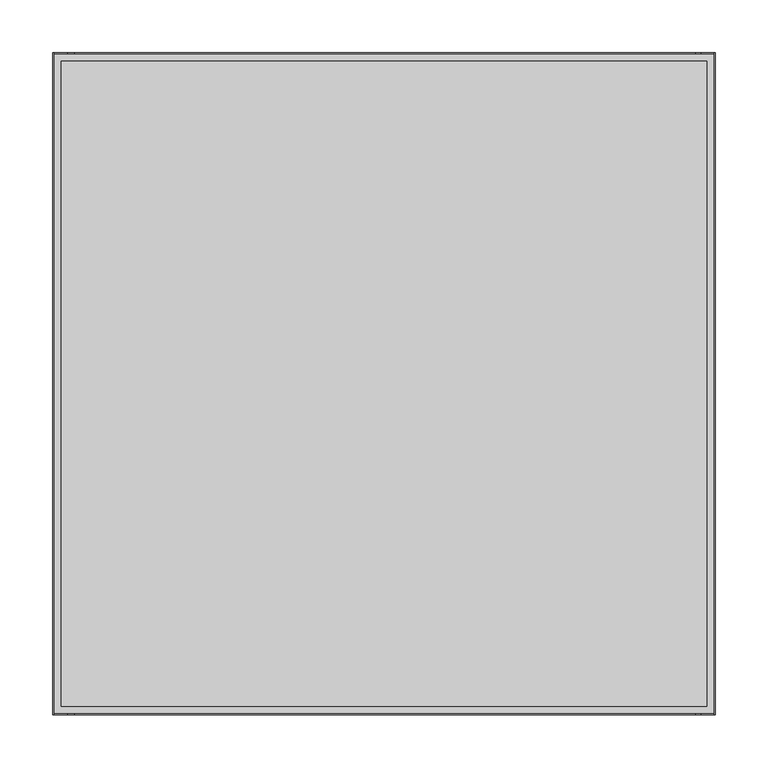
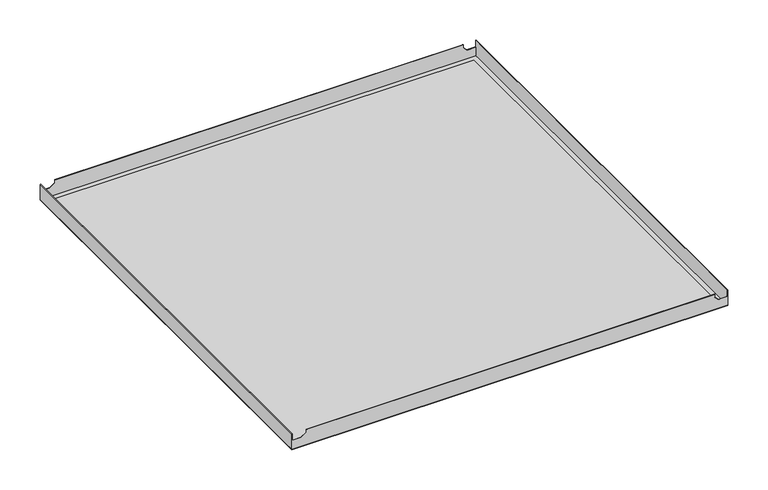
"""IFC4 building model written with IfcOpenShell, lengths in millimetres: proxy geometry, durlum_S1_panel : durlum_S1_panel."""

import ifcopenshell
import ifcopenshell.guid

model = None  # the IFC model being written
_history = None  # IfcOwnerHistory: only IFC2X3 demands one
_inside = {}  # id of a spatial element -> (the spatial element, [elements in it])
_under = {}  # id of a project, library or spatial element -> (it, [spatial elements below it])
_declared = {}  # id of a project -> (the project, [libraries it declares])
_typed = {}  # id of a type object -> (the type object, [elements of that type])
_made_of = {}  # id of a material, layer set ... -> (it, [elements and type objects made of it])


def new_model(schema):
    """Start an empty IFC model of exactly this schema.

    Asked for "IFC4X3", IfcOpenShell would pick the latest addendum, in which some entities
    have other attributes; the version numbers below select the first issue.
    IFC2X3 requires an IfcOwnerHistory on every rooted entity: one is made here for all.
    """
    global model, _history
    if schema == "IFC4X3":
        model = ifcopenshell.file(schema_version=(4, 3, 0, 0))
    else:
        model = ifcopenshell.file(schema=schema)
    _inside.clear()
    _under.clear()
    _declared.clear()
    _typed.clear()
    _made_of.clear()
    _history = None
    if model.schema == "IFC2X3":
        org = make("IfcOrganization", Name="unknown")
        user = make(
            "IfcPersonAndOrganization",
            ThePerson=make("IfcPerson", FamilyName="unknown"),
            TheOrganization=org,
        )
        app = make(
            "IfcApplication",
            ApplicationDeveloper=org,
            Version="unknown",
            ApplicationFullName="unknown",
            ApplicationIdentifier="unknown",
        )
        _history = make(
            "IfcOwnerHistory",
            OwningUser=user,
            OwningApplication=app,
            ChangeAction="ADDED",
            CreationDate=0,
        )
    return model


def make(cls, **values):
    """One entity of the class cls with the attributes given. An attribute that is None is left unset."""
    return model.create_entity(
        cls, **{name: value for name, value in values.items() if value is not None}
    )


def rooted(cls, **values):
    """An entity with a GlobalId (a new one), such as an element, a storey or a relation."""
    return make(cls, GlobalId=ifcopenshell.guid.new(), OwnerHistory=_history, **values)


def si_unit(unit_type, name, prefix=None):
    """IfcSIUnit, for example si_unit("LENGTHUNIT", "METRE", prefix="MILLI")."""
    return make("IfcSIUnit", UnitType=unit_type, Prefix=prefix, Name=name)


def assignment(units):
    """IfcUnitAssignment: the units of a project."""
    return None if units is None else make("IfcUnitAssignment", Units=units)


def point(xyz):
    """IfcCartesianPoint."""
    return None if xyz is None else make("IfcCartesianPoint", Coordinates=xyz)


def direction(xyz):
    """IfcDirection."""
    return None if xyz is None else make("IfcDirection", DirectionRatios=xyz)


def frame(location, z_axis=None, x_axis=None):
    """IfcAxis2Placement3D, a coordinate frame: its origin and axes. An axis left out is left unset."""
    return make(
        "IfcAxis2Placement3D",
        Location=point(location),
        Axis=direction(z_axis),
        RefDirection=direction(x_axis),
    )


def origin():
    """The frame at (0, 0, 0) with its axes left unset."""
    return frame((0.0, 0.0, 0.0))


def origin_with_axes():
    """The frame at (0, 0, 0) with the z axis (0, 0, 1) and the x axis (1, 0, 0) written out."""
    return frame((0.0, 0.0, 0.0), z_axis=(0.0, 0.0, 1.0), x_axis=(1.0, 0.0, 0.0))


def place(relative_to, where):
    """IfcLocalPlacement: puts the frame where relative to a parent placement (None: the world)."""
    return make(
        "IfcLocalPlacement", PlacementRelTo=relative_to, RelativePlacement=where
    )


def context(
    kind, dimensions, precision=None, world=None, true_north=None, identifier=None
):
    """IfcGeometricRepresentationContext, for example the 3D "Model" context."""
    return make(
        "IfcGeometricRepresentationContext",
        ContextIdentifier=identifier,
        ContextType=kind,
        CoordinateSpaceDimension=dimensions,
        Precision=precision,
        WorldCoordinateSystem=world,
        TrueNorth=true_north,
    )


def project(units=None, contexts=None):
    """IfcProject with its units and contexts."""
    return rooted(
        "IfcProject",
        Name="project",
        RepresentationContexts=contexts,
        UnitsInContext=assignment(units),
    )


def spatial(cls, under=None, at=None, **own):
    """A site, building, storey or space (cls), placed at a placement, below another one or the project."""
    s = rooted(cls, ObjectPlacement=at, **own)
    if under is not None:
        _under.setdefault(under.id(), (under, []))[1].append(s)
    return s


def polyline(points):
    """IfcPolyline through the points."""
    return make("IfcPolyline", Points=[point(p) for p in points])


def outline(outer, holes=None, kind="AREA"):
    """IfcArbitraryClosedProfileDef: a profile drawn as a closed curve; with holes, ...WithVoids."""
    if holes is None:
        return make("IfcArbitraryClosedProfileDef", ProfileType=kind, OuterCurve=outer)
    return make(
        "IfcArbitraryProfileDefWithVoids",
        ProfileType=kind,
        OuterCurve=outer,
        InnerCurves=holes,
    )


def extrude(swept, where, along, depth):
    """IfcExtrudedAreaSolid: the profile swept, set in the frame where, extruded along a direction by depth."""
    return make(
        "IfcExtrudedAreaSolid",
        SweptArea=swept,
        Position=where,
        ExtrudedDirection=direction(along),
        Depth=depth,
    )


def faces_of(points, faces, orient=None, outer=None):
    """IfcFace entities. A face is a list of loops; a loop is a list of indices into points, from 0.

    orient and outer hold one flag for each loop. By default every Orientation is true, the
    first loop of a face is its IfcFaceOuterBound and the others are IfcFaceBound.
    """
    made = []
    for i, loops in enumerate(faces):
        bounds = []
        for j, loop in enumerate(loops):
            is_outer = j == 0 if outer is None else outer[i][j]
            bounds.append(
                make(
                    "IfcFaceOuterBound" if is_outer else "IfcFaceBound",
                    Bound=make("IfcPolyLoop", Polygon=[points[k] for k in loop]),
                    Orientation=True if orient is None else orient[i][j],
                )
            )
        made.append(make("IfcFace", Bounds=bounds))
    return made


def faceted_brep(points, faces, orient=None, outer=None, voids=None):
    """IfcFacetedBrep: a solid bounded by flat faces; with voids (closed shells), ...WithVoids."""
    shared = [point(p) for p in points]
    hull = make("IfcClosedShell", CfsFaces=faces_of(shared, faces, orient, outer))
    if voids is None:
        return make("IfcFacetedBrep", Outer=hull)
    return make(
        "IfcFacetedBrepWithVoids",
        Outer=hull,
        Voids=[
            make(cls, CfsFaces=faces_of(shared, fs, o, b)) for cls, fs, o, b in voids
        ],
    )


def shape(context_of_items, identifier, shape_type, items):
    """IfcShapeRepresentation: the items that make up one representation, for example the "Body"."""
    return make(
        "IfcShapeRepresentation",
        ContextOfItems=context_of_items,
        RepresentationIdentifier=identifier,
        RepresentationType=shape_type,
        Items=items,
    )


def source(mapping_origin, context_of_items, identifier, shape_type, items):
    """IfcRepresentationMap: a shape defined once, which mapped items show again and again."""
    return make(
        "IfcRepresentationMap",
        MappingOrigin=mapping_origin,
        MappedRepresentation=shape(context_of_items, identifier, shape_type, items),
    )


def transform(
    local_origin,
    x_axis=None,
    y_axis=None,
    z_axis=None,
    scale=None,
    scale2=None,
    scale3=None,
    uniform=True,
):
    """IfcCartesianTransformationOperator3D, or its non-uniform kind. x_axis, y_axis, z_axis: its Axis1, 2, 3."""
    if uniform:
        return make(
            "IfcCartesianTransformationOperator3D",
            Axis1=direction(x_axis),
            Axis2=direction(y_axis),
            LocalOrigin=point(local_origin),
            Scale=scale,
            Axis3=direction(z_axis),
        )
    return make(
        "IfcCartesianTransformationOperator3DnonUniform",
        Axis1=direction(x_axis),
        Axis2=direction(y_axis),
        LocalOrigin=point(local_origin),
        Scale=scale,
        Axis3=direction(z_axis),
        Scale2=scale2,
        Scale3=scale3,
    )


def mapped(mapping_source, mapping_target):
    """IfcMappedItem: shows the shape of a source again, moved by a transform."""
    return make(
        "IfcMappedItem", MappingSource=mapping_source, MappingTarget=mapping_target
    )


def made_of(thing, what):
    """Note that an element or type object is made of a material, layer set ...; save() writes the relation."""
    if what is not None:
        _made_of.setdefault(what.id(), (what, []))[1].append(thing)
    return thing


def element(
    cls,
    number,
    at=None,
    inside=None,
    cuts=None,
    type_object=None,
    material=None,
    context=None,
    identifier="Body",
    shape_type=None,
    held_by="IfcProductDefinitionShape",
    body=None,
    shapes=None,
    **own,
):
    """One element of the class cls, such as IfcWall. Its Tag is "e" and its number.

    at: its placement. inside: the storey or other place that contains it. cuts: it is an
    opening in that element (IfcRelVoidsElement). A single representation is given by context,
    identifier, shape_type and body (its items); several are given by shapes. held_by: the class
    of the entity that holds the representations. save() writes the other relations.
    """
    e = rooted(cls, Tag="e%d" % number, ObjectPlacement=at, **own)
    if body is not None:
        shapes = [shape(context, identifier, shape_type, body)]
    if shapes is not None:
        e.Representation = make(held_by, Representations=shapes)
    if inside is not None:
        _inside.setdefault(inside.id(), (inside, []))[1].append(e)
    if cuts is not None:
        rooted(
            "IfcRelVoidsElement", RelatingBuildingElement=cuts, RelatedOpeningElement=e
        )
    if type_object is not None:
        _typed.setdefault(type_object.id(), (type_object, []))[1].append(e)
    return made_of(e, material)


def aggregate(whole, parts):
    """IfcRelAggregates: a whole, such as a stair, and the parts it consists of."""
    return rooted("IfcRelAggregates", RelatingObject=whole, RelatedObjects=parts)


def save(model, path):
    """Write the relations noted so far, then the file.

    IfcRelAggregates (storeys below a building ...), IfcRelContainedInSpatialStructure (elements
    in a storey), IfcRelDefinesByType, IfcRelAssociatesMaterial and IfcRelDeclares: one each for
    every whole, place, type object, material and project.
    """
    for whole, parts in _under.values():
        aggregate(whole, parts)
    for where, things in _inside.values():
        rooted(
            "IfcRelContainedInSpatialStructure",
            RelatedElements=things,
            RelatingStructure=where,
        )
    for kind, things in _typed.values():
        rooted("IfcRelDefinesByType", RelatedObjects=things, RelatingType=kind)
    for what, things in _made_of.values():
        rooted("IfcRelAssociatesMaterial", RelatedObjects=things, RelatingMaterial=what)
    for by, libraries in _declared.values():
        rooted("IfcRelDeclares", RelatingContext=by, RelatedDefinitions=libraries)
    model.write(path)


def generic_models_39815823(model_context):
    return source(origin(), model_context, "Body", "SolidModel", [
        faceted_brep([(-312.5, 312.5, 23.5), (-312.5, -312.5, 23.5), (-311.9, -312.5, 23.5), (-311.9, 312.5, 23.5), (312.5, -312.5, 23.5), (312.5, 312.5, 23.5), (311.9, 312.5, 23.5), (311.9, -312.5, 23.5), (-291.9, 312.5, 23.5), (-291.9, 311.9, 23.5), (293.9, 311.9, 23.5), (293.9, 312.5, 23.5), (-291.9, -311.9, 23.5), (-291.9, -312.5, 23.5), (293.9, -312.5, 23.5), (293.9, -311.9, 23.5), (312.5, 312.5, 0.6), (312.5, -312.5, 0.6), (-312.5, -312.5, 0.6), (-312.5, 312.5, 0.6), (311.9, 311.9, 0.6), (-311.9, 311.9, 0.6), (-311.9, -311.9, 0.6), (311.9, -311.9, 0.6), (-311.9, 312.5, 13.6669893), (-299.1658218, 312.5, 13.6669893), (-291.9, 312.5, 18.9328111), (293.9, 312.5, 18.9469988), (299.1800094, 312.5, 13.6669893), (311.9, 312.5, 13.6669893), (311.9, -312.5, 13.6669893), (299.1800094, -312.5, 13.6669893), (293.9, -312.5, 18.9469988), (-291.9, -312.5, 18.9328111), (-299.1658218, -312.5, 13.6669893), (-311.9, -312.5, 13.6669893), (311.9, 311.9, 13.6669893), (311.9, -311.9, 13.6669893), (-311.9, -311.9, 13.6669893), (-299.1658218, -311.9, 13.6669893), (-291.9, -311.9, 18.9328111), (293.9, -311.9, 18.9469988), (299.1800094, -311.9, 13.6669893), (-311.9, 311.9, 13.6669893), (299.1800094, 311.9, 13.6669893), (293.9, 311.9, 18.9469988), (-291.9, 311.9, 18.9328111), (-299.1658218, 311.9, 13.6669893)], [[[0, 1, 2, 3]], [[4, 5, 6, 7]], [[8, 9, 10, 11]], [[12, 13, 14, 15]], [[16, 17, 18, 19], [20, 21, 22, 23]], [[16, 19, 0, 3, 24, 25, 26, 8, 11, 27, 28, 29, 6, 5]], [[1, 0, 19, 18]], [[18, 17, 4, 7, 30, 31, 32, 14, 13, 33, 34, 35, 2, 1]], [[5, 4, 17, 16]], [[6, 29, 36, 20, 23, 37, 30, 7]], [[23, 22, 38, 39, 40, 12, 15, 41, 42, 37]], [[22, 21, 43, 24, 3, 2, 35, 38]], [[21, 20, 36, 44, 45, 10, 9, 46, 47, 43]], [[38, 35, 34, 39]], [[24, 43, 47, 25]], [[39, 34, 33, 40]], [[25, 47, 46, 26]], [[40, 33, 13, 12]], [[26, 46, 9, 8]], [[44, 28, 27, 45]], [[31, 42, 41, 32]], [[32, 41, 15, 14]], [[45, 27, 11, 10]], [[36, 29, 28, 44]], [[30, 37, 42, 31]]]),
        extrude(outline(polyline([(304.5, 304.5), (304.5, -304.5), (-304.5, -304.5), (-304.5, 304.5), (304.5, 304.5)])), frame((0.0, 0.0, 0.6), z_axis=(0.0, 0.0, 1.0), x_axis=(1.0, 0.0, 0.0)), (0.0, 0.0, 1.0), 0.6),
        extrude(outline(polyline([(312.5, 312.5), (312.5, -312.5), (-312.5, -312.5), (-312.5, 312.5), (312.5, 312.5)]), holes=[polyline([(304.5, 304.5), (-304.5, 304.5), (-304.5, -304.5), (304.5, -304.5), (304.5, 304.5)])]), origin_with_axes(), (0.0, 0.0, 1.0), 0.6),
        extrude(outline(polyline([(304.5, 304.5), (304.5, -304.5), (-304.5, -304.5), (-304.5, 304.5), (304.5, 304.5)])), origin_with_axes(), (0.0, 0.0, 1.0), 0.6),
    ])


if __name__ == "__main__":
    model = new_model("IFC4")
    model_context = context("Model", 3, world=origin())
    ifc_project = project(units=[si_unit("LENGTHUNIT", "METRE", prefix="MILLI")], contexts=[model_context])
    site = spatial("IfcSite", under=ifc_project)
    building = spatial("IfcBuilding", under=site)
    placement = place(None, origin())
    generic_models_shape = generic_models_39815823(model_context)
    element("IfcBuildingElementProxy", 1, Name="durlum_S1_panel : durlum_S1_panel", ObjectType="durlum_S1_panel : durlum_S1_panel", at=placement, inside=building, context=model_context, shape_type="MappedRepresentation", body=[
        mapped(generic_models_shape, transform((0.0, 0.0, 0.0), x_axis=(1.0, 0.0, 0.0), y_axis=(0.0, 1.0, 0.0), z_axis=(0.0, 0.0, 1.0))),
    ])
    save(model, "model.ifc")
